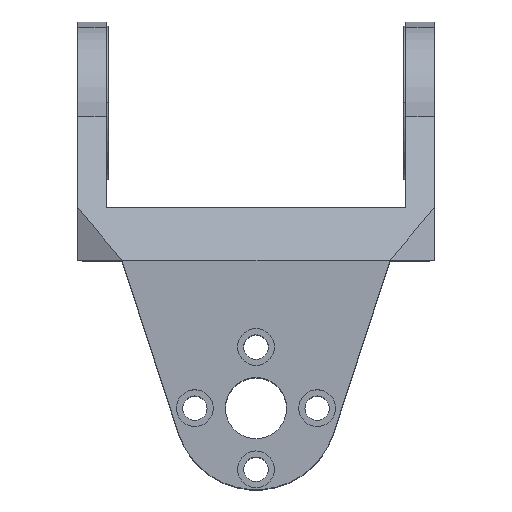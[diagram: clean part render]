
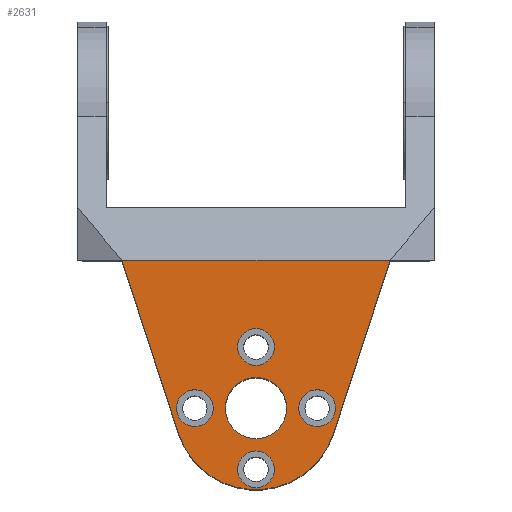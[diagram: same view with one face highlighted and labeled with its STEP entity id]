
A CAD part, top view. The second image highlights one B-rep face of the part: STEP entity #2631.
In plain terms, the highlighted planar face has unit normal (0, 0, 1) as drawn and (-1, 0, 0) by its records, which use the part's own axes.
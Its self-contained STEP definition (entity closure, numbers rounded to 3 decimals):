
#136 = EDGE_CURVE ( 'NONE', #2215, #1810, #1463, .T. ) ;
#173 = CARTESIAN_POINT ( 'NONE',  ( -16.928, -16.026, 0. ) ) ;
#179 = FACE_BOUND ( 'NONE', #3281, .T. ) ;
#199 = DIRECTION ( 'NONE',  ( 0., 0., -1. ) ) ;
#294 = EDGE_CURVE ( 'NONE', #3804, #2540, #595, .T. ) ;
#305 = ORIENTED_EDGE ( 'NONE', *, *, #324, .F. ) ;
#324 = EDGE_CURVE ( 'NONE', #1720, #1362, #3296, .T. ) ;
#405 = CARTESIAN_POINT ( 'NONE',  ( -16.928, -22.026, 6. ) ) ;
#457 = EDGE_CURVE ( 'NONE', #1321, #1168, #2129, .T. ) ;
#474 = ORIENTED_EDGE ( 'NONE', *, *, #457, .T. ) ;
#496 = DIRECTION ( 'NONE',  ( -1., 0., 0. ) ) ;
#499 = EDGE_LOOP ( 'NONE', ( #2262, #3688 ) ) ;
#531 = CARTESIAN_POINT ( 'NONE',  ( -16.928, -22.026, 7.8 ) ) ;
#545 = CARTESIAN_POINT ( 'NONE',  ( -16.928, -16.026, -1.8 ) ) ;
#595 = CIRCLE ( 'NONE', #2494, 1.8 ) ;
#735 = DIRECTION ( 'NONE',  ( 0., 0., 1. ) ) ;
#751 = AXIS2_PLACEMENT_3D ( 'NONE', #2082, #3757, #3406 ) ;
#757 = ORIENTED_EDGE ( 'NONE', *, *, #2427, .F. ) ;
#766 = VERTEX_POINT ( 'NONE', #2088 ) ;
#791 = DIRECTION ( 'NONE',  ( 0., -0.951, 0.31 ) ) ;
#809 = EDGE_LOOP ( 'NONE', ( #2454, #305 ) ) ;
#810 = CARTESIAN_POINT ( 'NONE',  ( -16.928, -28.026, -1.8 ) ) ;
#871 = EDGE_CURVE ( 'NONE', #1362, #1720, #1910, .T. ) ;
#890 = FACE_BOUND ( 'NONE', #499, .T. ) ;
#911 = VERTEX_POINT ( 'NONE', #810 ) ;
#962 = DIRECTION ( 'NONE',  ( -1., 0., 0. ) ) ;
#973 = AXIS2_PLACEMENT_3D ( 'NONE', #4101, #962, #984 ) ;
#984 = DIRECTION ( 'NONE',  ( 0., 0., 1. ) ) ;
#1122 = CARTESIAN_POINT ( 'NONE',  ( -16.928, -22.026, -6. ) ) ;
#1168 = VERTEX_POINT ( 'NONE', #3756 ) ;
#1169 = CARTESIAN_POINT ( 'NONE',  ( -16.928, -22.026, 0. ) ) ;
#1208 = FACE_BOUND ( 'NONE', #1386, .T. ) ;
#1306 = DIRECTION ( 'NONE',  ( -1., 0., 0. ) ) ;
#1320 = CARTESIAN_POINT ( 'NONE',  ( -16.928, -22.026, 4.2 ) ) ;
#1321 = VERTEX_POINT ( 'NONE', #3984 ) ;
#1357 = CARTESIAN_POINT ( 'NONE',  ( -16.928, -22.026, -6. ) ) ;
#1362 = VERTEX_POINT ( 'NONE', #2541 ) ;
#1366 = AXIS2_PLACEMENT_3D ( 'NONE', #2762, #2375, #3811 ) ;
#1383 = VERTEX_POINT ( 'NONE', #531 ) ;
#1386 = EDGE_LOOP ( 'NONE', ( #4320, #757 ) ) ;
#1434 = DIRECTION ( 'NONE',  ( -1., 0., 0. ) ) ;
#1463 = CIRCLE ( 'NONE', #2639, 1.8 ) ;
#1631 = VECTOR ( 'NONE', #791, 1000. ) ;
#1699 = ORIENTED_EDGE ( 'NONE', *, *, #4161, .F. ) ;
#1720 = VERTEX_POINT ( 'NONE', #4251 ) ;
#1730 = DIRECTION ( 'NONE',  ( -1., 0., 0. ) ) ;
#1787 = CIRCLE ( 'NONE', #3755, 1.8 ) ;
#1795 = DIRECTION ( 'NONE',  ( 0., 0., 1. ) ) ;
#1810 = VERTEX_POINT ( 'NONE', #2273 ) ;
#1822 = LINE ( 'NONE', #3286, #2156 ) ;
#1833 = EDGE_LOOP ( 'NONE', ( #4050, #2993, #474, #3472 ) ) ;
#1856 = AXIS2_PLACEMENT_3D ( 'NONE', #4012, #2285, #4414 ) ;
#1910 = CIRCLE ( 'NONE', #2572, 3. ) ;
#1919 = LINE ( 'NONE', #4054, #4196 ) ;
#1960 = FACE_BOUND ( 'NONE', #809, .T. ) ;
#2021 = AXIS2_PLACEMENT_3D ( 'NONE', #1122, #2155, #735 ) ;
#2082 = CARTESIAN_POINT ( 'NONE',  ( -16.928, -28.026, 0. ) ) ;
#2088 = CARTESIAN_POINT ( 'NONE',  ( -16.928, -7.526, 13.152 ) ) ;
#2113 = EDGE_CURVE ( 'NONE', #2561, #1321, #3929, .T. ) ;
#2128 = DIRECTION ( 'NONE',  ( -1., 0., 0. ) ) ;
#2129 = CIRCLE ( 'NONE', #3663, 8. ) ;
#2155 = DIRECTION ( 'NONE',  ( -1., 0., 0. ) ) ;
#2156 = VECTOR ( 'NONE', #3216, 1000. ) ;
#2215 = VERTEX_POINT ( 'NONE', #545 ) ;
#2235 = DIRECTION ( 'NONE',  ( -1., 0., 0. ) ) ;
#2245 = FACE_OUTER_BOUND ( 'NONE', #1833, .T. ) ;
#2262 = ORIENTED_EDGE ( 'NONE', *, *, #2408, .F. ) ;
#2273 = CARTESIAN_POINT ( 'NONE',  ( -16.928, -16.026, 1.8 ) ) ;
#2285 = DIRECTION ( 'NONE',  ( -1., 0., 0. ) ) ;
#2375 = DIRECTION ( 'NONE',  ( -1., 0., 0. ) ) ;
#2382 = VERTEX_POINT ( 'NONE', #1320 ) ;
#2408 = EDGE_CURVE ( 'NONE', #1810, #2215, #3740, .T. ) ;
#2427 = EDGE_CURVE ( 'NONE', #911, #3454, #2797, .T. ) ;
#2454 = ORIENTED_EDGE ( 'NONE', *, *, #871, .F. ) ;
#2484 = CARTESIAN_POINT ( 'NONE',  ( -16.928, -7.526, -13.152 ) ) ;
#2494 = AXIS2_PLACEMENT_3D ( 'NONE', #1357, #1730, #2765 ) ;
#2495 = DIRECTION ( 'NONE',  ( 0., 0., 1. ) ) ;
#2540 = VERTEX_POINT ( 'NONE', #2824 ) ;
#2541 = CARTESIAN_POINT ( 'NONE',  ( -16.928, -22.026, 3. ) ) ;
#2561 = VERTEX_POINT ( 'NONE', #3660 ) ;
#2570 = CARTESIAN_POINT ( 'NONE',  ( -16.928, -22.026, -4.2 ) ) ;
#2572 = AXIS2_PLACEMENT_3D ( 'NONE', #1169, #2574, #1795 ) ;
#2574 = DIRECTION ( 'NONE',  ( -1., 0., 0. ) ) ;
#2622 = CARTESIAN_POINT ( 'NONE',  ( -16.928, -28.026, 1.8 ) ) ;
#2623 = EDGE_CURVE ( 'NONE', #766, #2561, #1919, .T. ) ;
#2631 = ADVANCED_FACE ( 'NONE', ( #1960, #1208, #179, #3321, #890, #2245 ), #3358, .T. ) ;
#2639 = AXIS2_PLACEMENT_3D ( 'NONE', #173, #496, #4410 ) ;
#2762 = CARTESIAN_POINT ( 'NONE',  ( -16.928, -22.026, 6. ) ) ;
#2765 = DIRECTION ( 'NONE',  ( 0., 0., 1. ) ) ;
#2797 = CIRCLE ( 'NONE', #751, 1.8 ) ;
#2820 = DIRECTION ( 'NONE',  ( 0., 0., 1. ) ) ;
#2824 = CARTESIAN_POINT ( 'NONE',  ( -16.928, -22.026, -7.8 ) ) ;
#2849 = EDGE_CURVE ( 'NONE', #1383, #2382, #1787, .T. ) ;
#2918 = DIRECTION ( 'NONE',  ( 0., 0., 1. ) ) ;
#2993 = ORIENTED_EDGE ( 'NONE', *, *, #2113, .T. ) ;
#3077 = CARTESIAN_POINT ( 'NONE',  ( -16.928, -22.026, 0. ) ) ;
#3145 = ORIENTED_EDGE ( 'NONE', *, *, #294, .F. ) ;
#3216 = DIRECTION ( 'NONE',  ( 0., 0.951, 0.31 ) ) ;
#3247 = CARTESIAN_POINT ( 'NONE',  ( -16.928, -22.026, 0. ) ) ;
#3281 = EDGE_LOOP ( 'NONE', ( #3775, #1699 ) ) ;
#3286 = CARTESIAN_POINT ( 'NONE',  ( -16.928, -24.509, 7.605 ) ) ;
#3291 = EDGE_CURVE ( 'NONE', #1168, #766, #1822, .T. ) ;
#3296 = CIRCLE ( 'NONE', #3959, 3. ) ;
#3321 = FACE_BOUND ( 'NONE', #4298, .T. ) ;
#3358 = PLANE ( 'NONE',  #1856 ) ;
#3406 = DIRECTION ( 'NONE',  ( 0., 0., 1. ) ) ;
#3454 = VERTEX_POINT ( 'NONE', #2622 ) ;
#3472 = ORIENTED_EDGE ( 'NONE', *, *, #3291, .T. ) ;
#3639 = CIRCLE ( 'NONE', #2021, 1.8 ) ;
#3660 = CARTESIAN_POINT ( 'NONE',  ( -16.928, -7.526, -13.152 ) ) ;
#3663 = AXIS2_PLACEMENT_3D ( 'NONE', #3247, #2235, #2918 ) ;
#3688 = ORIENTED_EDGE ( 'NONE', *, *, #136, .F. ) ;
#3740 = CIRCLE ( 'NONE', #973, 1.8 ) ;
#3755 = AXIS2_PLACEMENT_3D ( 'NONE', #405, #1434, #2495 ) ;
#3756 = CARTESIAN_POINT ( 'NONE',  ( -16.928, -24.509, 7.605 ) ) ;
#3757 = DIRECTION ( 'NONE',  ( -1., 0., 0. ) ) ;
#3775 = ORIENTED_EDGE ( 'NONE', *, *, #2849, .F. ) ;
#3804 = VERTEX_POINT ( 'NONE', #2570 ) ;
#3811 = DIRECTION ( 'NONE',  ( 0., 0., 1. ) ) ;
#3813 = DIRECTION ( 'NONE',  ( 0., 0., 1. ) ) ;
#3862 = CIRCLE ( 'NONE', #1366, 1.8 ) ;
#3893 = CARTESIAN_POINT ( 'NONE',  ( -16.928, -28.026, 0. ) ) ;
#3929 = LINE ( 'NONE', #2484, #1631 ) ;
#3959 = AXIS2_PLACEMENT_3D ( 'NONE', #3077, #1306, #3813 ) ;
#3984 = CARTESIAN_POINT ( 'NONE',  ( -16.928, -24.509, -7.605 ) ) ;
#4012 = CARTESIAN_POINT ( 'NONE',  ( -16.928, -22.026, 0. ) ) ;
#4050 = ORIENTED_EDGE ( 'NONE', *, *, #2623, .T. ) ;
#4054 = CARTESIAN_POINT ( 'NONE',  ( -16.928, -7.526, 17.5 ) ) ;
#4072 = EDGE_CURVE ( 'NONE', #2540, #3804, #3639, .T. ) ;
#4101 = CARTESIAN_POINT ( 'NONE',  ( -16.928, -16.026, 0. ) ) ;
#4104 = EDGE_CURVE ( 'NONE', #3454, #911, #4437, .T. ) ;
#4149 = AXIS2_PLACEMENT_3D ( 'NONE', #3893, #2128, #2820 ) ;
#4161 = EDGE_CURVE ( 'NONE', #2382, #1383, #3862, .T. ) ;
#4196 = VECTOR ( 'NONE', #199, 1000. ) ;
#4251 = CARTESIAN_POINT ( 'NONE',  ( -16.928, -22.026, -3. ) ) ;
#4298 = EDGE_LOOP ( 'NONE', ( #3145, #4319 ) ) ;
#4319 = ORIENTED_EDGE ( 'NONE', *, *, #4072, .F. ) ;
#4320 = ORIENTED_EDGE ( 'NONE', *, *, #4104, .F. ) ;
#4410 = DIRECTION ( 'NONE',  ( 0., 0., 1. ) ) ;
#4414 = DIRECTION ( 'NONE',  ( 0., 0., 1. ) ) ;
#4437 = CIRCLE ( 'NONE', #4149, 1.8 ) ;
